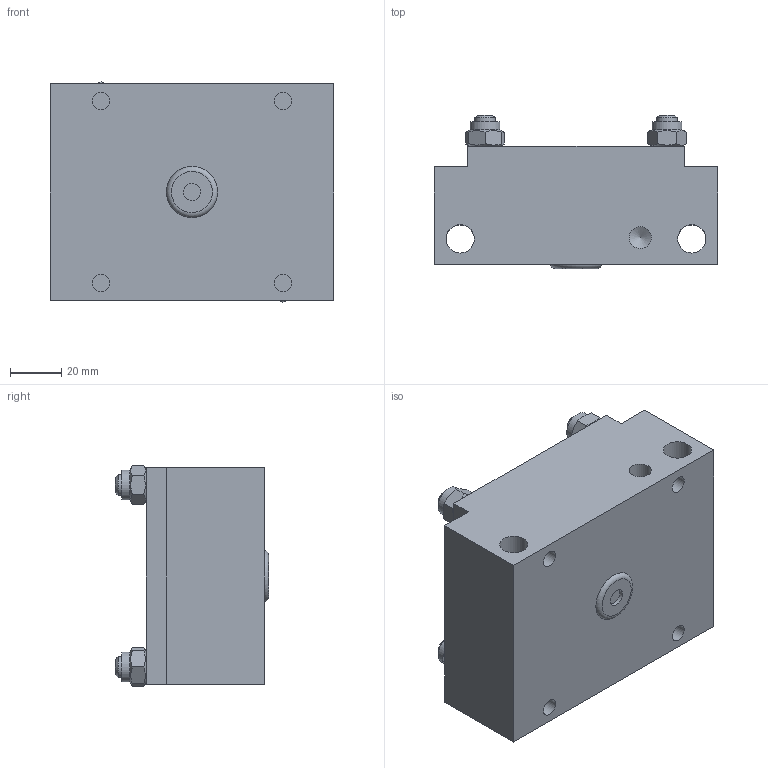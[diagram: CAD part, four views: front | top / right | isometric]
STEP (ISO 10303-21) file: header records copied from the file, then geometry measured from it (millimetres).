
FILE_DESCRIPTION((''),'2;1');
FILE_NAME('C:\VaultWork\Zeichnungen\Maßblätter\Multizylinder\M 75\M75-30\M01787-4-0 Maßblatt Multizylinder M75-1-12.stp','2013-06-17T11:23:02',('Sergeew'),(''),'Autodesk Inventor 2012','Autodesk Inventor 2012','');
FILE_SCHEMA(('AUTOMOTIVE_DESIGN { 1 0 10303 214 1 1 1 1 }'));
Length unit declared in the file: millimetre
Products named in the file (1): M01787-4-0 Maßblatt Multizylinder M75-1-12
Bounding box: 110 x 59.5 x 85.72 mm (x, y, z)
Volume: 390165.2 mm3; surface area: 48394.3 mm2
Topology: 1 solids, 1 shells, 104 faces, 235 edges, 156 vertices
Faces by surface type: plane 57, cylinder 25, cone 21, torus 1
Full cylindrical faces by diameter (mm): 6.647 x5, 8 x8, 8.566 x2, 9 x4, 11 x2, 11.6 x4
Entity records: 2540 total; most frequent: CARTESIAN_POINT 497, DIRECTION 394, ORIENTED_EDGE 328, EDGE_LOOP 178, AXIS2_PLACEMENT_3D 173, EDGE_CURVE 164, VERTEX_POINT 132, FACE_OUTER_BOUND 104
